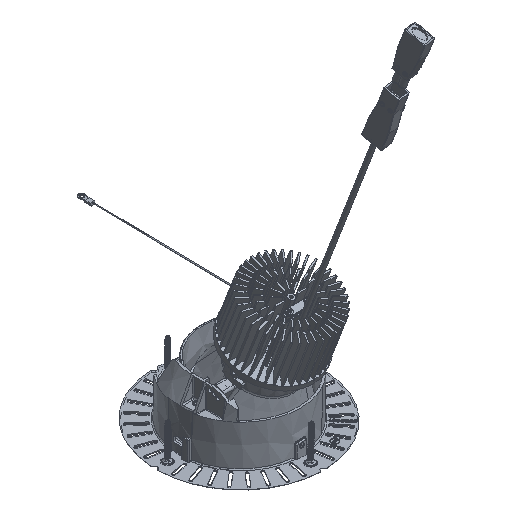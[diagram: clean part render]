
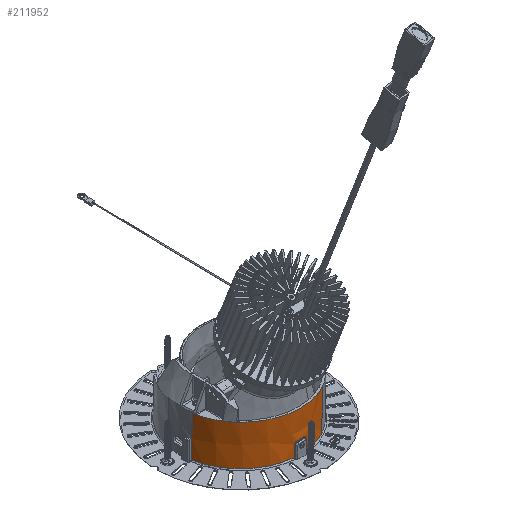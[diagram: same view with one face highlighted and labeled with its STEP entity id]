
A CAD part, isometric view. The second image highlights one B-rep face of the part: STEP entity #211952.
In plain terms, the highlighted conical face has half-angle 0.5 degrees and reference radius 57.325 mm.
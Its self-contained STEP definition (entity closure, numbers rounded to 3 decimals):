
#192594=CARTESIAN_POINT('',(0.,0.,
0.991));
#192595=DIRECTION('',(0.,0.,-1.));
#192596=DIRECTION('',(-0.095,-0.995,0.));
#192597=AXIS2_PLACEMENT_3D('',#192594,#192595,#192596);
#192614=CARTESIAN_POINT('',(-56.278,-11.,
18.));
#192615=CARTESIAN_POINT('',(-56.309,-11.099,
12.33));
#192616=CARTESIAN_POINT('',(-56.34,-11.198,
6.661));
#192617=CARTESIAN_POINT('',(-56.371,-11.297,
0.991));
#192619=CARTESIAN_POINT('',(-56.018,-11.367,
39.));
#192620=CARTESIAN_POINT('',(-56.105,-11.244,
32.));
#192621=CARTESIAN_POINT('',(-56.192,-11.122,
25.));
#192622=CARTESIAN_POINT('',(-56.278,-11.,
18.));
#192624=CARTESIAN_POINT('',(0.,0.,39.));
#192625=DIRECTION('',(0.,0.,-1.));
#192626=DIRECTION('',(-0.97,-0.245,0.));
#192627=AXIS2_PLACEMENT_3D('',#192624,#192625,#192626);
#192629=CARTESIAN_POINT('',(0.,0.,39.));
#192630=DIRECTION('',(0.,0.,-1.));
#192631=DIRECTION('',(-0.73,-0.683,0.));
#192632=AXIS2_PLACEMENT_3D('',#192629,#192630,#192631);
#192634=CARTESIAN_POINT('',(0.,0.,39.));
#192635=DIRECTION('',(0.,0.,-1.));
#192636=DIRECTION('',(0.479,-0.878,0.));
#192637=AXIS2_PLACEMENT_3D('',#192634,#192635,#192636);
#192654=CARTESIAN_POINT('',(0.,0.,0.991));
#192655=DIRECTION('',(0.,0.,1.));
#192656=DIRECTION('',(0.095,-0.995,0.));
#192657=AXIS2_PLACEMENT_3D('',#192654,#192655,#192656);
#192668=DIRECTION('',(0.004,-0.008,-1.));
#192669=VECTOR('',#192668,38.01);
#192670=CARTESIAN_POINT('',(27.404,-50.162,39.));
#192671=LINE('',#192670,#192669);
#192736=CARTESIAN_POINT('',(0.,0.,39.));
#192737=DIRECTION('',(0.,0.,1.));
#192738=DIRECTION('',(-0.73,-0.683,0.));
#192739=AXIS2_PLACEMENT_3D('',#192736,#192737,#192738);
#192741=CARTESIAN_POINT('',(0.,0.,39.));
#192742=DIRECTION('',(0.,0.,1.));
#192743=DIRECTION('',(-0.842,-0.54,0.));
#192744=AXIS2_PLACEMENT_3D('',#192741,#192742,#192743);
#192866=CARTESIAN_POINT('',(-48.115,-30.857,39.));
#192868=CARTESIAN_POINT('',(0.,0.,39.));
#192869=DIRECTION('',(0.,0.,1.));
#192870=DIRECTION('',(-0.967,-0.254,0.));
#192871=AXIS2_PLACEMENT_3D('',#192868,#192869,#192870);
#192879=CARTESIAN_POINT('',(-55.29,-14.5,39.));
#192890=CARTESIAN_POINT('',(0.,0.,39.));
#192891=DIRECTION('',(0.,0.,1.));
#192892=DIRECTION('',(-0.97,-0.245,0.));
#192893=AXIS2_PLACEMENT_3D('',#192890,#192891,#192892);
#192898=CARTESIAN_POINT('',(-55.886,-12.,
39.));
#193122=CARTESIAN_POINT('',(0.,0.,39.));
#193123=DIRECTION('',(0.,0.,1.));
#193124=DIRECTION('',(-0.98,-0.199,0.));
#193125=AXIS2_PLACEMENT_3D('',#193122,#193123,#193124);
#196235=CARTESIAN_POINT('',(-5.452,-57.143,
11.196));
#196236=CARTESIAN_POINT('',(-5.452,-57.173,
7.794));
#196237=CARTESIAN_POINT('',(-5.454,-57.202,
4.393));
#196238=CARTESIAN_POINT('',(-5.454,-57.232,
0.991));
#196245=CARTESIAN_POINT('',(-2.974,-57.303,
13.696));
#196246=CARTESIAN_POINT('',(-3.238,-57.29,
13.694));
#196247=CARTESIAN_POINT('',(-3.74,-57.261,
13.616));
#196248=CARTESIAN_POINT('',(-4.45,-57.213,
13.256));
#196249=CARTESIAN_POINT('',(-5.01,-57.171,
12.694));
#196250=CARTESIAN_POINT('',(-5.371,-57.144,
11.977));
#196251=CARTESIAN_POINT('',(-5.451,-57.141,
11.465));
#196252=CARTESIAN_POINT('',(-5.452,-57.143,
11.196));
#196276=CARTESIAN_POINT('',(0.,0.,13.696));
#196277=DIRECTION('',(0.,0.,-1.));
#196278=DIRECTION('',(0.052,-0.999,0.));
#196279=AXIS2_PLACEMENT_3D('',#196276,#196277,#196278);
#196286=CARTESIAN_POINT('',(5.452,-57.143,
11.196));
#196287=CARTESIAN_POINT('',(5.451,-57.141,
11.464));
#196288=CARTESIAN_POINT('',(5.372,-57.144,
11.973));
#196289=CARTESIAN_POINT('',(5.013,-57.17,
12.69));
#196290=CARTESIAN_POINT('',(4.453,-57.213,
13.253));
#196291=CARTESIAN_POINT('',(3.743,-57.261,
13.615));
#196292=CARTESIAN_POINT('',(3.239,-57.29,
13.694));
#196293=CARTESIAN_POINT('',(2.974,-57.303,
13.696));
#196343=CARTESIAN_POINT('',(5.454,-57.232,
0.991));
#196344=CARTESIAN_POINT('',(5.454,-57.202,
4.393));
#196345=CARTESIAN_POINT('',(5.452,-57.173,
7.794));
#196346=CARTESIAN_POINT('',(5.452,-57.143,
11.196));
#204993=VERTEX_POINT('',#192879);
#205039=VERTEX_POINT('',#192866);
#205136=VERTEX_POINT('',#192898);
#205137=CARTESIAN_POINT('',(-55.419,-14.,39.));
#205138=VERTEX_POINT('',#205137);
#205139=CARTESIAN_POINT('',(-56.018,-11.367,39.));
#205140=VERTEX_POINT('',#205139);
#205147=CARTESIAN_POINT('',(2.974,-57.303,
13.696));
#205148=VERTEX_POINT('',#205147);
#205149=CARTESIAN_POINT('',(-2.974,-57.303,
13.696));
#205150=VERTEX_POINT('',#205149);
#205152=VERTEX_POINT('',#196252);
#205154=CARTESIAN_POINT('',(5.453,-57.143,
11.196));
#205155=VERTEX_POINT('',#205154);
#205244=CARTESIAN_POINT('',(-47.868,-31.239,39.));
#205245=VERTEX_POINT('',#205244);
#205246=CARTESIAN_POINT('',(-41.73,-39.062,39.));
#205247=VERTEX_POINT('',#205246);
#205248=CARTESIAN_POINT('',(-40.517,-40.319,39.));
#205249=VERTEX_POINT('',#205248);
#205333=CARTESIAN_POINT('',(-56.278,-11.,18.));
#205334=VERTEX_POINT('',#205333);
#205353=CARTESIAN_POINT('',(5.457,-57.232,
0.991));
#205354=CARTESIAN_POINT('',(27.563,-50.453,
0.991));
#205355=VERTEX_POINT('',#205353);
#205356=VERTEX_POINT('',#205354);
#205357=CARTESIAN_POINT('',(27.404,-50.162,39.));
#205358=VERTEX_POINT('',#205357);
#205359=VERTEX_POINT('',#192617);
#205360=CARTESIAN_POINT('',(-5.457,-57.232,
0.991));
#205361=VERTEX_POINT('',#205360);
#211911=CARTESIAN_POINT('',(0.,0.,19.996));
#211912=DIRECTION('',(0.,0.,-1.));
#211913=DIRECTION('',(-0.479,0.878,0.));
#211914=AXIS2_PLACEMENT_3D('',#211911,#211912,#211913);
#211915=CONICAL_SURFACE('',#211914,57.326,0.5);
#211917=ORIENTED_EDGE('',*,*,#211916,.F.);
#211919=ORIENTED_EDGE('',*,*,#211918,.T.);
#211921=ORIENTED_EDGE('',*,*,#211920,.T.);
#211923=ORIENTED_EDGE('',*,*,#211922,.T.);
#211925=ORIENTED_EDGE('',*,*,#211924,.T.);
#211927=ORIENTED_EDGE('',*,*,#211926,.T.);
#211928=ORIENTED_EDGE('',*,*,#211900,.T.);
#211929=ORIENTED_EDGE('',*,*,#211890,.F.);
#211931=ORIENTED_EDGE('',*,*,#211930,.F.);
#211933=ORIENTED_EDGE('',*,*,#211932,.T.);
#211935=ORIENTED_EDGE('',*,*,#211934,.F.);
#211937=ORIENTED_EDGE('',*,*,#211936,.T.);
#211939=ORIENTED_EDGE('',*,*,#211938,.T.);
#211941=ORIENTED_EDGE('',*,*,#211940,.T.);
#211943=ORIENTED_EDGE('',*,*,#211942,.F.);
#211945=ORIENTED_EDGE('',*,*,#211944,.T.);
#211947=ORIENTED_EDGE('',*,*,#211946,.F.);
#211949=ORIENTED_EDGE('',*,*,#211948,.T.);
#211950=EDGE_LOOP('',(#211917,#211919,#211921,#211923,#211925,#211927,#211928,
#211929,#211931,#211933,#211935,#211937,#211939,#211941,#211943,#211945,#211947,
#211949));
#211951=FACE_OUTER_BOUND('',#211950,.F.);
#211952=ADVANCED_FACE('',(#211951),#211915,.T.);
#192598=CIRCLE('',#192597,57.491);
#192618=B_SPLINE_CURVE_WITH_KNOTS('',3,(#192614,#192615,#192616,#192617),
.UNSPECIFIED.,.F.,.F.,(4,4),(0.,1.),.UNSPECIFIED.);
#192623=B_SPLINE_CURVE_WITH_KNOTS('',3,(#192619,#192620,#192621,#192622),
.UNSPECIFIED.,.F.,.F.,(4,4),(0.,1.),.UNSPECIFIED.);
#192628=CIRCLE('',#192627,57.16);
#192633=CIRCLE('',#192632,57.16);
#192638=CIRCLE('',#192637,57.16);
#192658=CIRCLE('',#192657,57.491);
#192740=CIRCLE('',#192739,57.16);
#192745=CIRCLE('',#192744,57.16);
#192872=CIRCLE('',#192871,57.16);
#192894=CIRCLE('',#192893,57.16);
#193126=CIRCLE('',#193125,57.16);
#196239=B_SPLINE_CURVE_WITH_KNOTS('',3,(#196235,#196236,#196237,#196238),
.UNSPECIFIED.,.F.,.F.,(4,4),(0.,1.),.UNSPECIFIED.);
#196253=B_SPLINE_CURVE_WITH_KNOTS('',3,(#196245,#196246,#196247,#196248,#196249,
#196250,#196251,#196252),.UNSPECIFIED.,.F.,.F.,(4,1,1,1,1,4),(0.,0.2,0.4,
0.6,0.8,1.),.UNSPECIFIED.);
#196280=CIRCLE('',#196279,57.38);
#196294=B_SPLINE_CURVE_WITH_KNOTS('',3,(#196286,#196287,#196288,#196289,#196290,
#196291,#196292,#196293),.UNSPECIFIED.,.F.,.F.,(4,1,1,1,1,4),(0.,0.2,0.4,
0.6,0.8,1.),.UNSPECIFIED.);
#196347=B_SPLINE_CURVE_WITH_KNOTS('',3,(#196343,#196344,#196345,#196346),
.UNSPECIFIED.,.F.,.F.,(4,4),(0.,1.),.UNSPECIFIED.);
#211890=EDGE_CURVE('',#205334,#205359,#192618,.T.);
#211900=EDGE_CURVE('',#205361,#205359,#192598,.T.);
#211916=EDGE_CURVE('',#205355,#205356,#192658,.T.);
#211918=EDGE_CURVE('',#205355,#205155,#196347,.T.);
#211920=EDGE_CURVE('',#205155,#205148,#196294,.T.);
#211922=EDGE_CURVE('',#205148,#205150,#196280,.T.);
#211924=EDGE_CURVE('',#205150,#205152,#196253,.T.);
#211926=EDGE_CURVE('',#205152,#205361,#196239,.T.);
#211930=EDGE_CURVE('',#205140,#205334,#192623,.T.);
#211932=EDGE_CURVE('',#205140,#205136,#193126,.T.);
#211934=EDGE_CURVE('',#205138,#205136,#192628,.T.);
#211936=EDGE_CURVE('',#205138,#204993,#192894,.T.);
#211938=EDGE_CURVE('',#204993,#205039,#192872,.T.);
#211940=EDGE_CURVE('',#205039,#205245,#192745,.T.);
#211942=EDGE_CURVE('',#205247,#205245,#192633,.T.);
#211944=EDGE_CURVE('',#205247,#205249,#192740,.T.);
#211946=EDGE_CURVE('',#205358,#205249,#192638,.T.);
#211948=EDGE_CURVE('',#205358,#205356,#192671,.T.);
